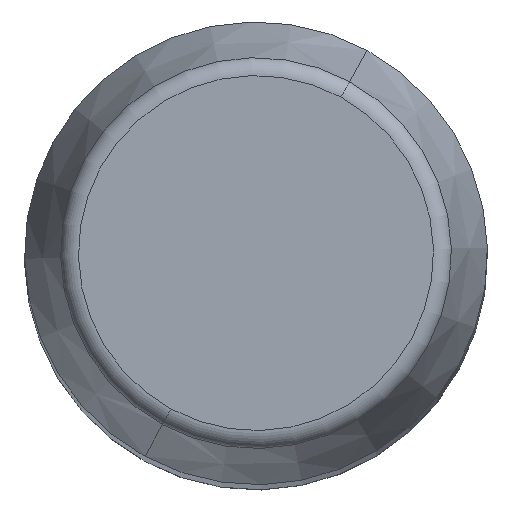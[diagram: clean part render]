
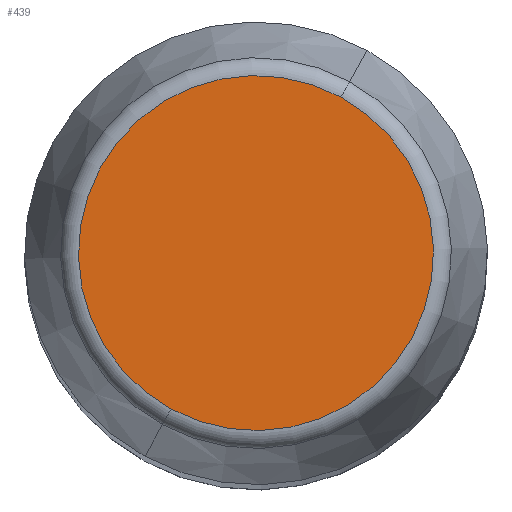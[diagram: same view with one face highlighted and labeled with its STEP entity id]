
A CAD part, top view. The second image highlights one B-rep face of the part: STEP entity #439.
In plain terms, the highlighted planar face has unit normal (0, 0, 1).
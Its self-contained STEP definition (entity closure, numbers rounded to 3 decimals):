
#391=CARTESIAN_POINT('Vertex',(-4.597,-8.415,180.)) ;
#394=CARTESIAN_POINT('Axis2P3D Location',(0.,0.,180.)) ;
#398=CARTESIAN_POINT('Vertex',(4.597,8.415,180.)) ;
#418=CARTESIAN_POINT('Axis2P3D Location',(0.,0.,180.)) ;
#430=CARTESIAN_POINT('Axis2P3D Location',(0.,9.589,180.)) ;
#395=DIRECTION('Axis2P3D Direction',(0.,0.,-1.)) ;
#419=DIRECTION('Axis2P3D Direction',(0.,0.,-1.)) ;
#431=DIRECTION('Axis2P3D Direction',(0.,0.,-1.)) ;
#432=DIRECTION('Axis2P3D XDirection',(1.,0.,0.)) ;
#396=AXIS2_PLACEMENT_3D('Circle Axis2P3D',#394,#395,$) ;
#420=AXIS2_PLACEMENT_3D('Circle Axis2P3D',#418,#419,$) ;
#433=AXIS2_PLACEMENT_3D('Plane Axis2P3D',#430,#431,#432) ;
#436=ORIENTED_EDGE('',*,*,#422,.F.) ;
#437=ORIENTED_EDGE('',*,*,#400,.F.) ;
#439=ADVANCED_FACE('PartBody',(#438),#434,.F.) ;
#397=CIRCLE('generated circle',#396,9.589) ;
#421=CIRCLE('generated circle',#420,9.589) ;
#400=EDGE_CURVE('',#392,#399,#397,.T.) ;
#422=EDGE_CURVE('',#399,#392,#421,.T.) ;
#435=EDGE_LOOP('',(#436,#437)) ;
#438=FACE_OUTER_BOUND('',#435,.T.) ;
#434=PLANE('Plane',#433) ;
#392=VERTEX_POINT('',#391) ;
#399=VERTEX_POINT('',#398) ;
